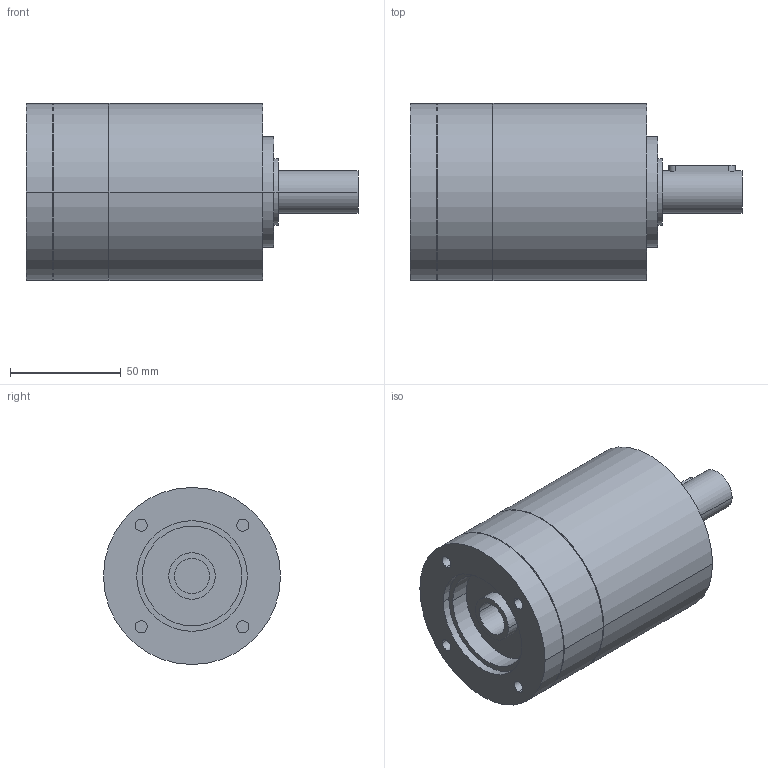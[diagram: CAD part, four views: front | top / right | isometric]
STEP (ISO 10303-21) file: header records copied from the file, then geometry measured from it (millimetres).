
FILE_DESCRIPTION(('CoCreate Modeling STEP Export'),'2;1');
FILE_NAME('GPR100_ig-3-4-5-6_19_B14_15.87_P10.stp','2014-08-26T10:07:38',(''),(''),'CoCreate Modeling STEP processor for AP214 (Solid Model)','CoCreate Modeling 16.00C 25-Feb-2009 (C) Parametric Technology GmbH','');
FILE_SCHEMA(('AUTOMOTIVE_DESIGN { 1 0 10303 214 1 1 1 1 }'));
Length unit declared in the file: millimetre
Products named in the file (2): GPR100_ig-3-4-5-6_19_B14_15.87_P10
Assembly tree (1 placements, depth 2):
  GPR100_ig-3-4-5-6_19_B14_15.87_P10
    GPR100_ig-3-4-5-6_19_B14_15.87_P10
Bounding box: 150 x 80 x 80 mm (x, y, z)
Volume: 530251.6 mm3; surface area: 47276.6 mm2
Topology: 1 solids, 1 shells, 80 faces, 201 edges, 143 vertices
Faces by surface type: cylinder 48, plane 26, cone 6
Entity records: 2026 total; most frequent: ORIENTED_EDGE 398, CARTESIAN_POINT 369, DIRECTION 264, EDGE_CURVE 199, VERTEX_POINT 143, AXIS2_PLACEMENT_3D 102, EDGE_LOOP 102, FACE_OUTER_BOUND 80
